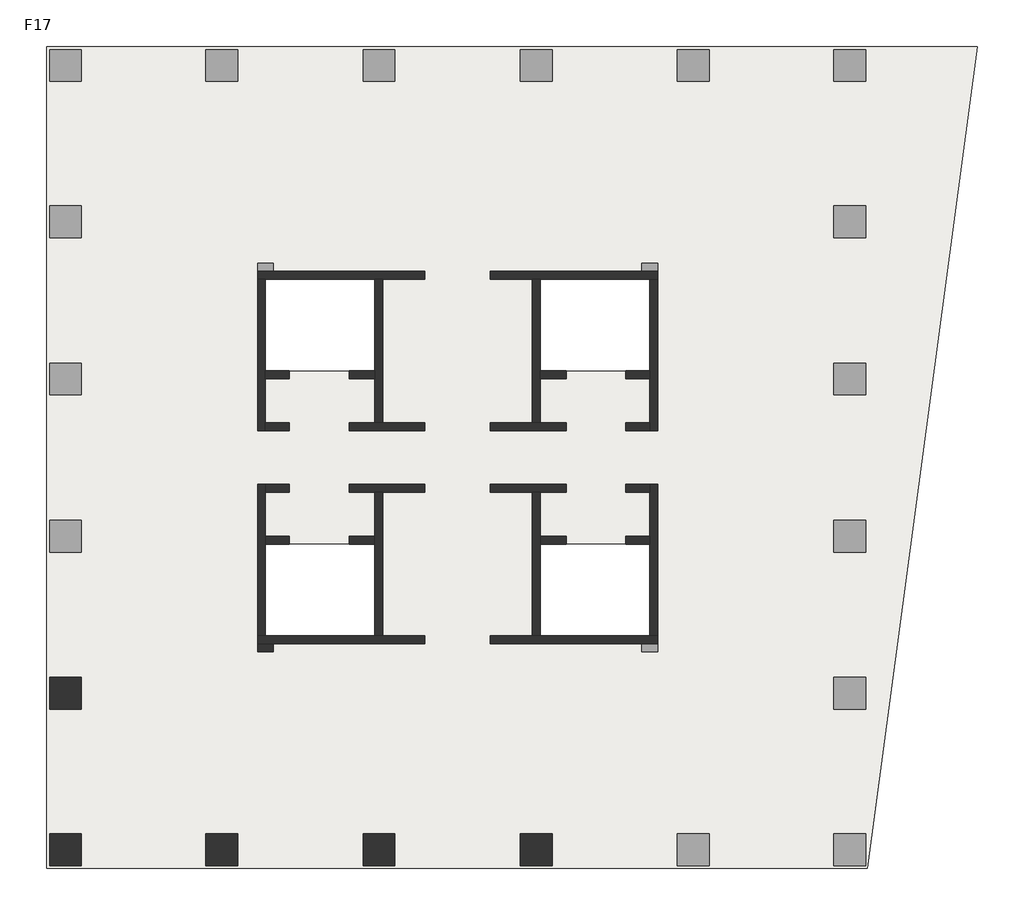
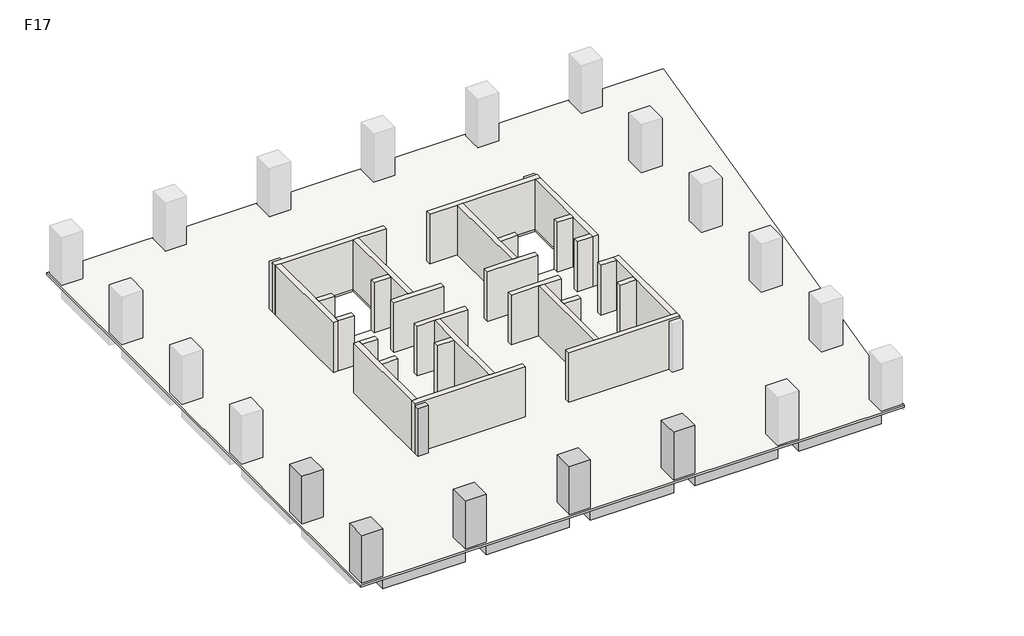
# One storey, part 1 of 2: 28 walls, 6 columns, 5 beams, 1 slab.
"""IFC4 building model written with IfcOpenShell, lengths in millimetres."""

from ifc_helpers import new_model, si_unit, frame, origin, place, context, project, spatial, polyline, outline, extrude, faceted_brep, element, save

model = new_model("IFC4")

# Units and contexts
model_context = context("Model", 3, world=origin())
ifc_project = project(units=[si_unit("LENGTHUNIT", "METRE", prefix="MILLI")], contexts=[model_context])

# Site, building, storey
site = spatial("IfcSite", under=ifc_project)
building = spatial("IfcBuilding", under=site)
storey = spatial("IfcBuildingStorey", under=building, Name="F17", Elevation=68000.0)

# Beams
placement = place(None, origin())
element("IfcBeam", 1, ObjectType="混凝土 - 矩形梁 : KL(5)-800x1000", at=placement, inside=storey, context=model_context, shape_type="SweptSolid", body=[
    extrude(outline(polyline([(-12472.6742169, -13948.9501342), (-12472.6742169, -13148.9501342), (-6222.6742169, -13148.9501342), (-6222.6742169, -13948.9501342), (-12472.6742169, -13948.9501342)])), frame((0.0, 0.0, 67000.0), z_axis=(0.0, 0.0, 1.0), x_axis=(1.0, 0.0, 0.0)), (0.0, 0.0, 1.0), 840.0),
    extrude(outline(polyline([(25327.3257831, -13148.9501342), (25327.3257831, -13948.9501342), (19077.3257831, -13948.9501342), (19077.3257831, -13148.9501342), (25327.3257831, -13148.9501342)])), frame((0.0, 0.0, 67000.0), z_axis=(0.0, 0.0, 1.0), x_axis=(1.0, 0.0, 0.0)), (0.0, 0.0, 1.0), 840.0),
    extrude(outline(polyline([(-4622.6742169, -13948.9501342), (-4622.6742169, -13148.9501342), (1677.3257831, -13148.9501342), (1677.3257831, -13948.9501342), (-4622.6742169, -13948.9501342)])), frame((0.0, 0.0, 67000.0), z_axis=(0.0, 0.0, 1.0), x_axis=(1.0, 0.0, 0.0)), (0.0, 0.0, 1.0), 840.0),
    extrude(outline(polyline([(3277.3257831, -13948.9501342), (3277.3257831, -13148.9501342), (9577.3257831, -13148.9501342), (9577.3257831, -13948.9501342), (3277.3257831, -13948.9501342)])), frame((0.0, 0.0, 67000.0), z_axis=(0.0, 0.0, 1.0), x_axis=(1.0, 0.0, 0.0)), (0.0, 0.0, 1.0), 840.0),
    extrude(outline(polyline([(11177.3257831, -13948.9501342), (11177.3257831, -13148.9501342), (17477.3257831, -13148.9501342), (17477.3257831, -13948.9501342), (11177.3257831, -13948.9501342)])), frame((0.0, 0.0, 67000.0), z_axis=(0.0, 0.0, 1.0), x_axis=(1.0, 0.0, 0.0)), (0.0, 0.0, 1.0), 840.0),
])
element("IfcBeam", 2, ObjectType="混凝土 - 矩形梁 : L1-800x500", at=placement, inside=storey, context=model_context, shape_type="Brep", body=[
    faceted_brep([(-12472.6742169, -5512.1353397, 67500.0), (-3746.9473979, -3341.556529, 67500.0), (-3173.6696907, -3198.9501342, 67500.0), (-3173.6696907, -3198.9501342, 67840.0), (-3746.9473979, -3341.556529, 67840.0), (-12472.6742169, -5512.1353397, 67840.0), (-3622.6742169, -3198.9501342, 67500.0), (-12472.6742169, -4687.7549784, 67500.0), (-3622.6742169, -2486.2624411, 67500.0), (-3622.6742169, -2798.9501342, 67500.0), (-12472.6742169, -4687.7549784, 67840.0), (-3622.6742169, -2486.2624411, 67840.0), (-3622.6742169, -3198.9501342, 67840.0)], [[[0, 1, 2, 3, 4, 5]], [[6, 2, 1, 0, 7, 8, 9]], [[8, 7, 10, 11]], [[2, 6, 12, 3]], [[9, 8, 11, 12, 6]], [[7, 0, 5, 10]], [[5, 4, 3, 12, 11, 10]]]),
])
element("IfcBeam", 3, ObjectType="混凝土 - 矩形梁 : L1-800x500", at=placement, inside=storey, context=model_context, shape_type="SweptSolid", body=[
    extrude(outline(polyline([(-3746.9473979, -3341.556529), (-3173.6696907, -3198.9501342), (-2898.7618154, -3198.9501342), (-4843.6893517, -12348.9501342), (-5661.5624638, -12348.9501342), (-3746.9473979, -3341.556529)])), frame((0.0, 0.0, 67500.0), z_axis=(0.0, 0.0, 1.0), x_axis=(1.0, 0.0, 0.0)), (0.0, 0.0, 1.0), 340.0),
])
element("IfcBeam", 4, ObjectType="混凝土 - 矩形梁 : L1-800x500", at=placement, inside=storey, context=model_context, shape_type="SweptSolid", body=[
    extrude(outline(polyline([(2877.3257831, -12348.9501342), (2077.3257831, -12348.9501342), (2077.3257831, -2798.9501342), (2877.3257831, -2798.9501342), (2877.3257831, -12348.9501342)])), frame((0.0, 0.0, 67500.0), z_axis=(0.0, 0.0, 1.0), x_axis=(1.0, 0.0, 0.0)), (0.0, 0.0, 1.0), 340.0),
])
element("IfcBeam", 5, ObjectType="混凝土 - 矩形梁 : L1-800x500", at=placement, inside=storey, context=model_context, shape_type="SweptSolid", body=[
    extrude(outline(polyline([(10777.3257831, -12348.9501342), (9977.3257831, -12348.9501342), (9977.3257831, -2798.9501342), (10777.3257831, -2798.9501342), (10777.3257831, -12348.9501342)])), frame((0.0, 0.0, 67500.0), z_axis=(0.0, 0.0, 1.0), x_axis=(1.0, 0.0, 0.0)), (0.0, 0.0, 1.0), 340.0),
])

# Columns
element("IfcColumn", 6, ObjectType="混凝土 - 矩形 - 柱 : Z1-1600x1600", at=placement, inside=storey, context=model_context, shape_type="Brep", body=[
    faceted_brep([(-12472.6742169, -4498.9501342, 68000.0), (-12472.6742169, -6098.9501342, 68000.0), (-14072.6742169, -6098.9501342, 68000.0), (-14072.6742169, -4498.9501342, 68000.0), (-12472.6742169, -4498.9501342, 71840.0), (-12472.6742169, -6098.9501342, 71840.0), (-13272.6742169, -6098.9501342, 71840.0), (-14072.6742169, -6098.9501342, 71840.0), (-14072.6742169, -6098.9501342, 71000.0), (-14072.6742169, -4498.9501342, 71840.0), (-14072.6742169, -4498.9501342, 71000.0), (-13272.6742169, -4498.9501342, 71840.0)], [[[0, 1, 2, 3]], [[1, 0, 4, 5]], [[2, 1, 5, 6, 7, 8]], [[3, 2, 8, 7, 9, 10]], [[0, 3, 10, 9, 11, 4]], [[5, 4, 11, 9, 7, 6]]]),
])
element("IfcColumn", 7, ObjectType="混凝土 - 矩形 - 柱 : Z1-1600x1600", at=placement, inside=storey, context=model_context, shape_type="SweptSolid", body=[
    extrude(outline(polyline([(-12472.6742169, -12348.9501342), (-12472.6742169, -13948.9501342), (-14072.6742169, -13948.9501342), (-14072.6742169, -12348.9501342), (-12472.6742169, -12348.9501342)])), frame((0.0, 0.0, 68000.0), z_axis=(0.0, 0.0, 1.0), x_axis=(1.0, 0.0, 0.0)), (0.0, 0.0, 1.0), 3840.0),
])
element("IfcColumn", 8, ObjectType="混凝土 - 矩形 - 柱 : Z1-1600x1600", at=placement, inside=storey, context=model_context, shape_type="Brep", body=[
    faceted_brep([(-4622.6742169, -12348.9501342, 68000.0), (-4622.6742169, -13948.9501342, 68000.0), (-6222.6742169, -13948.9501342, 68000.0), (-6222.6742169, -12348.9501342, 68000.0), (-4622.6742169, -12348.9501342, 71840.0), (-4622.6742169, -13148.9501342, 71840.0), (-4622.6742169, -13948.9501342, 71840.0), (-4622.6742169, -13948.9501342, 71000.0), (-6222.6742169, -13948.9501342, 71840.0), (-6222.6742169, -13948.9501342, 71000.0), (-6222.6742169, -13148.9501342, 71840.0), (-6222.6742169, -12348.9501342, 71840.0)], [[[0, 1, 2, 3]], [[1, 0, 4, 5, 6, 7]], [[2, 1, 7, 6, 8, 9]], [[3, 2, 9, 8, 10, 11]], [[0, 3, 11, 4]], [[6, 5, 4, 11, 10, 8]]]),
])
element("IfcColumn", 9, ObjectType="混凝土 - 矩形 - 柱 : Z1-1600x1600", at=placement, inside=storey, context=model_context, shape_type="Brep", body=[
    faceted_brep([(3277.3257831, -12348.9501342, 68000.0), (3277.3257831, -13948.9501342, 68000.0), (1677.3257831, -13948.9501342, 68000.0), (1677.3257831, -12348.9501342, 68000.0), (3277.3257831, -12348.9501342, 71840.0), (3277.3257831, -13148.9501342, 71840.0), (3277.3257831, -13948.9501342, 71840.0), (3277.3257831, -13948.9501342, 71000.0), (1677.3257831, -13948.9501342, 71840.0), (1677.3257831, -13948.9501342, 71000.0), (1677.3257831, -13148.9501342, 71840.0), (1677.3257831, -12348.9501342, 71840.0)], [[[0, 1, 2, 3]], [[1, 0, 4, 5, 6, 7]], [[2, 1, 7, 6, 8, 9]], [[3, 2, 9, 8, 10, 11]], [[0, 3, 11, 4]], [[6, 5, 4, 11, 10, 8]]]),
])
element("IfcColumn", 10, ObjectType="混凝土 - 矩形 - 柱 : Z1-1600x1600", at=placement, inside=storey, context=model_context, shape_type="Brep", body=[
    faceted_brep([(11177.3257831, -12348.9501342, 68000.0), (11177.3257831, -13948.9501342, 68000.0), (9577.3257831, -13948.9501342, 68000.0), (9577.3257831, -12348.9501342, 68000.0), (11177.3257831, -12348.9501342, 71840.0), (11177.3257831, -13148.9501342, 71840.0), (11177.3257831, -13948.9501342, 71840.0), (11177.3257831, -13948.9501342, 71000.0), (9577.3257831, -13948.9501342, 71840.0), (9577.3257831, -13948.9501342, 71000.0), (9577.3257831, -13148.9501342, 71840.0), (9577.3257831, -12348.9501342, 71840.0)], [[[0, 1, 2, 3]], [[1, 0, 4, 5, 6, 7]], [[2, 1, 7, 6, 8, 9]], [[3, 2, 9, 8, 10, 11]], [[0, 3, 11, 4]], [[6, 5, 4, 11, 10, 8]]]),
])
element("IfcColumn", 11, ObjectType="混凝土 - 矩形 - 柱 : Z2-800x800", at=placement, inside=storey, context=model_context, shape_type="SweptSolid", body=[
    extrude(outline(polyline([(-2822.6742169, -3198.9501342), (-3622.6742169, -3198.9501342), (-3622.6742169, -2798.9501342), (-2822.6742169, -2798.9501342), (-2822.6742169, -3198.9501342)])), frame((0.0, 0.0, 68000.0), z_axis=(0.0, 0.0, 1.0), x_axis=(1.0, 0.0, 0.0)), (0.0, 0.0, 1.0), 3840.0),
])

# Slab
element("IfcSlab", 12, ObjectType="LB-160", at=placement, inside=storey, context=model_context, shape_type="Brep", body=[
    faceted_brep([(32549.4477343, 27201.0498658, 67840.0), (32422.0087099, 26251.0498658, 67840.0), (27029.3257831, -13948.9501342, 67840.0), (27011.0393465, -14085.2672073, 67840.0), (-14222.6742169, -14085.2672073, 67840.0), (-14222.6742169, 27201.0498658, 67840.0), (2277.3257831, 15501.0498658, 67840.0), (-3222.6742169, 15501.0498658, 67840.0), (-3222.6742169, 10901.0498658, 67840.0), (2277.3257831, 10901.0498658, 67840.0), (2277.3257831, 2201.0498658, 67840.0), (-3222.6742169, 2201.0498658, 67840.0), (-3222.6742169, -2398.9501342, 67840.0), (2277.3257831, -2398.9501342, 67840.0), (16077.3257831, 2201.0498658, 67840.0), (10577.3257831, 2201.0498658, 67840.0), (10577.3257831, -2398.9501342, 67840.0), (16077.3257831, -2398.9501342, 67840.0), (16077.3257831, 15501.0498658, 67840.0), (10577.3257831, 15501.0498658, 67840.0), (10577.3257831, 10901.0498658, 67840.0), (16077.3257831, 10901.0498658, 67840.0), (32549.4477343, 27201.0498658, 68000.0), (-14222.6742169, 27201.0498658, 68000.0), (-14222.6742169, -14085.2672073, 68000.0), (27011.0393465, -14085.2672073, 68000.0), (2277.3257831, 15501.0498658, 68000.0), (2277.3257831, 10901.0498658, 68000.0), (-3222.6742169, 10901.0498658, 68000.0), (-3222.6742169, 15501.0498658, 68000.0), (2277.3257831, 2201.0498658, 68000.0), (2277.3257831, -2398.9501342, 68000.0), (-3222.6742169, -2398.9501342, 68000.0), (-3222.6742169, 2201.0498658, 68000.0), (16077.3257831, 2201.0498658, 68000.0), (16077.3257831, -2398.9501342, 68000.0), (10577.3257831, -2398.9501342, 68000.0), (10577.3257831, 2201.0498658, 68000.0), (16077.3257831, 15501.0498658, 68000.0), (16077.3257831, 10901.0498658, 68000.0), (10577.3257831, 10901.0498658, 68000.0), (10577.3257831, 15501.0498658, 68000.0)], [[[0, 1, 2, 3, 4, 5], [6, 7, 8, 9], [10, 11, 12, 13], [14, 15, 16, 17], [18, 19, 20, 21]], [[22, 23, 24, 25], [26, 27, 28, 29], [30, 31, 32, 33], [34, 35, 36, 37], [38, 39, 40, 41]], [[3, 2, 1, 0, 22, 25]], [[4, 3, 25, 24]], [[5, 4, 24, 23]], [[0, 5, 23, 22]], [[7, 6, 26, 29]], [[8, 7, 29, 28]], [[9, 8, 28, 27]], [[6, 9, 27, 26]], [[11, 10, 30, 33]], [[12, 11, 33, 32]], [[13, 12, 32, 31]], [[10, 13, 31, 30]], [[15, 14, 34, 37]], [[16, 15, 37, 36]], [[17, 16, 36, 35]], [[14, 17, 35, 34]], [[19, 18, 38, 41]], [[20, 19, 41, 40]], [[21, 20, 40, 39]], [[18, 21, 39, 38]]]),
])

# Walls
element("IfcWall", 13, ObjectType="剪力墙-400", at=placement, inside=storey, context=model_context, shape_type="Brep", body=[
    faceted_brep([(-3622.6742169, 15501.0498658, 68000.0), (-3222.6742169, 15501.0498658, 68000.0), (2277.3257831, 15501.0498658, 68000.0), (2677.3257831, 15501.0498658, 68000.0), (4777.3257831, 15501.0498658, 68000.0), (4777.3257831, 15501.0498658, 72000.0), (2677.3257831, 15501.0498658, 72000.0), (2277.3257831, 15501.0498658, 72000.0), (-3222.6742169, 15501.0498658, 72000.0), (-3622.6742169, 15501.0498658, 72000.0), (-3622.6742169, 15901.0498658, 68000.0), (-3622.6742169, 15901.0498658, 71840.0), (-3622.6742169, 15901.0498658, 72000.0), (4777.3257831, 15901.0498658, 72000.0), (4777.3257831, 15901.0498658, 68000.0), (-2822.6742169, 15901.0498658, 68000.0)], [[[0, 1, 2, 3, 4, 5, 6, 7, 8, 9]], [[10, 11, 12, 13, 14, 15]], [[4, 3, 2, 1, 0, 10, 15, 14]], [[5, 4, 14, 13]], [[9, 8, 7, 6, 5, 13, 12]], [[0, 9, 12, 11, 10]]]),
])
element("IfcWall", 14, ObjectType="剪力墙-400", at=placement, inside=storey, context=model_context, shape_type="Brep", body=[
    faceted_brep([(2277.3257831, 15501.0498658, 68000.0), (2277.3257831, 10901.0498658, 68000.0), (2277.3257831, 10501.0498658, 68000.0), (2277.3257831, 8301.0498658, 68000.0), (2277.3257831, 8301.0498658, 72000.0), (2277.3257831, 10501.0498658, 72000.0), (2277.3257831, 10901.0498658, 72000.0), (2277.3257831, 15501.0498658, 72000.0), (2677.3257831, 15501.0498658, 68000.0), (2677.3257831, 15501.0498658, 72000.0), (2677.3257831, 8301.0498658, 72000.0), (2677.3257831, 8301.0498658, 68000.0)], [[[0, 1, 2, 3, 4, 5, 6, 7]], [[8, 9, 10, 11]], [[3, 2, 1, 0, 8, 11]], [[7, 6, 5, 4, 10, 9]], [[0, 7, 9, 8]], [[4, 3, 11, 10]]]),
])
element("IfcWall", 15, ObjectType="剪力墙-400", at=placement, inside=storey, context=model_context, shape_type="Brep", body=[
    faceted_brep([(-3622.6742169, 15501.0498658, 68000.0), (-3622.6742169, 7901.0498658, 68000.0), (-3622.6742169, 7901.0498658, 72000.0), (-3622.6742169, 15501.0498658, 72000.0), (-3222.6742169, 15501.0498658, 68000.0), (-3222.6742169, 15501.0498658, 72000.0), (-3222.6742169, 10901.0498658, 72000.0), (-3222.6742169, 10501.0498658, 72000.0), (-3222.6742169, 8301.0498658, 72000.0), (-3222.6742169, 7901.0498658, 72000.0), (-3222.6742169, 7901.0498658, 68000.0), (-3222.6742169, 8301.0498658, 68000.0), (-3222.6742169, 10501.0498658, 68000.0), (-3222.6742169, 10901.0498658, 68000.0)], [[[0, 1, 2, 3]], [[4, 5, 6, 7, 8, 9, 10, 11, 12, 13]], [[1, 0, 4, 13, 12, 11, 10]], [[3, 2, 9, 8, 7, 6, 5]], [[0, 3, 5, 4]], [[2, 1, 10, 9]]]),
])
element("IfcWall", 16, ObjectType="剪力墙-400", at=placement, inside=storey, context=model_context, shape_type="SweptSolid", body=[
    extrude(outline(polyline([(-2022.6742169, 7901.0498658), (-3222.6742169, 7901.0498658), (-3222.6742169, 8301.0498658), (-2022.6742169, 8301.0498658), (-2022.6742169, 7901.0498658)])), frame((0.0, 0.0, 68000.0), z_axis=(0.0, 0.0, 1.0), x_axis=(1.0, 0.0, 0.0)), (0.0, 0.0, 1.0), 4000.0),
])
element("IfcWall", 17, ObjectType="剪力墙-400", at=placement, inside=storey, context=model_context, shape_type="Brep", body=[
    faceted_brep([(977.3257831, 7901.0498658, 68000.0), (4777.3257831, 7901.0498658, 68000.0), (4777.3257831, 7901.0498658, 72000.0), (977.3257831, 7901.0498658, 72000.0), (977.3257831, 8301.0498658, 68000.0), (977.3257831, 8301.0498658, 72000.0), (2277.3257831, 8301.0498658, 72000.0), (2677.3257831, 8301.0498658, 72000.0), (4777.3257831, 8301.0498658, 72000.0), (4777.3257831, 8301.0498658, 68000.0), (2677.3257831, 8301.0498658, 68000.0), (2277.3257831, 8301.0498658, 68000.0)], [[[0, 1, 2, 3]], [[4, 5, 6, 7, 8, 9, 10, 11]], [[1, 0, 4, 11, 10, 9]], [[2, 1, 9, 8]], [[3, 2, 8, 7, 6, 5]], [[0, 3, 5, 4]]]),
])
element("IfcWall", 18, ObjectType="剪力墙-400", at=placement, inside=storey, context=model_context, shape_type="SweptSolid", body=[
    extrude(outline(polyline([(-2022.6742169, 10501.0498658), (-3222.6742169, 10501.0498658), (-3222.6742169, 10901.0498658), (-2022.6742169, 10901.0498658), (-2022.6742169, 10501.0498658)])), frame((0.0, 0.0, 68000.0), z_axis=(0.0, 0.0, 1.0), x_axis=(1.0, 0.0, 0.0)), (0.0, 0.0, 1.0), 4000.0),
])
element("IfcWall", 19, ObjectType="剪力墙-400", at=placement, inside=storey, context=model_context, shape_type="SweptSolid", body=[
    extrude(outline(polyline([(2277.3257831, 10501.0498658), (977.3257831, 10501.0498658), (977.3257831, 10901.0498658), (2277.3257831, 10901.0498658), (2277.3257831, 10501.0498658)])), frame((0.0, 0.0, 68000.0), z_axis=(0.0, 0.0, 1.0), x_axis=(1.0, 0.0, 0.0)), (0.0, 0.0, 1.0), 4000.0),
])
element("IfcWall", 20, ObjectType="剪力墙-400", at=placement, inside=storey, context=model_context, shape_type="Brep", body=[
    faceted_brep([(16477.3257831, 15901.0498658, 68000.0), (15677.3257831, 15901.0498658, 68000.0), (8077.3257831, 15901.0498658, 68000.0), (8077.3257831, 15901.0498658, 72000.0), (16477.3257831, 15901.0498658, 72000.0), (16477.3257831, 15901.0498658, 71840.0), (16477.3257831, 15501.0498658, 68000.0), (16477.3257831, 15501.0498658, 72000.0), (16077.3257831, 15501.0498658, 72000.0), (10577.3257831, 15501.0498658, 72000.0), (10177.3257831, 15501.0498658, 72000.0), (8077.3257831, 15501.0498658, 72000.0), (8077.3257831, 15501.0498658, 68000.0), (10177.3257831, 15501.0498658, 68000.0), (10577.3257831, 15501.0498658, 68000.0), (16077.3257831, 15501.0498658, 68000.0)], [[[0, 1, 2, 3, 4, 5]], [[6, 7, 8, 9, 10, 11, 12, 13, 14, 15]], [[2, 1, 0, 6, 15, 14, 13, 12]], [[3, 2, 12, 11]], [[4, 3, 11, 10, 9, 8, 7]], [[0, 5, 4, 7, 6]]]),
])
element("IfcWall", 21, ObjectType="剪力墙-400", at=placement, inside=storey, context=model_context, shape_type="Brep", body=[
    faceted_brep([(10177.3257831, 15501.0498658, 68000.0), (10177.3257831, 8301.0498658, 68000.0), (10177.3257831, 8301.0498658, 72000.0), (10177.3257831, 15501.0498658, 72000.0), (10577.3257831, 15501.0498658, 68000.0), (10577.3257831, 15501.0498658, 72000.0), (10577.3257831, 10901.0498658, 72000.0), (10577.3257831, 10501.0498658, 72000.0), (10577.3257831, 8301.0498658, 72000.0), (10577.3257831, 8301.0498658, 68000.0), (10577.3257831, 10501.0498658, 68000.0), (10577.3257831, 10901.0498658, 68000.0)], [[[0, 1, 2, 3]], [[4, 5, 6, 7, 8, 9, 10, 11]], [[1, 0, 4, 11, 10, 9]], [[3, 2, 8, 7, 6, 5]], [[0, 3, 5, 4]], [[2, 1, 9, 8]]]),
])
element("IfcWall", 22, ObjectType="剪力墙-400", at=placement, inside=storey, context=model_context, shape_type="Brep", body=[
    faceted_brep([(16077.3257831, 15501.0498658, 68000.0), (16077.3257831, 10901.0498658, 68000.0), (16077.3257831, 10501.0498658, 68000.0), (16077.3257831, 8301.0498658, 68000.0), (16077.3257831, 7901.0498658, 68000.0), (16077.3257831, 7901.0498658, 72000.0), (16077.3257831, 8301.0498658, 72000.0), (16077.3257831, 10501.0498658, 72000.0), (16077.3257831, 10901.0498658, 72000.0), (16077.3257831, 15501.0498658, 72000.0), (16477.3257831, 15501.0498658, 68000.0), (16477.3257831, 15501.0498658, 72000.0), (16477.3257831, 7901.0498658, 72000.0), (16477.3257831, 7901.0498658, 68000.0)], [[[0, 1, 2, 3, 4, 5, 6, 7, 8, 9]], [[10, 11, 12, 13]], [[4, 3, 2, 1, 0, 10, 13]], [[9, 8, 7, 6, 5, 12, 11]], [[0, 9, 11, 10]], [[5, 4, 13, 12]]]),
])
element("IfcWall", 23, ObjectType="剪力墙-400", at=placement, inside=storey, context=model_context, shape_type="SweptSolid", body=[
    extrude(outline(polyline([(14877.3257831, 8301.0498658), (16077.3257831, 8301.0498658), (16077.3257831, 7901.0498658), (14877.3257831, 7901.0498658), (14877.3257831, 8301.0498658)])), frame((0.0, 0.0, 68000.0), z_axis=(0.0, 0.0, 1.0), x_axis=(1.0, 0.0, 0.0)), (0.0, 0.0, 1.0), 4000.0),
])
element("IfcWall", 24, ObjectType="剪力墙-400", at=placement, inside=storey, context=model_context, shape_type="Brep", body=[
    faceted_brep([(11877.3257831, 8301.0498658, 68000.0), (10577.3257831, 8301.0498658, 68000.0), (10177.3257831, 8301.0498658, 68000.0), (8077.3257831, 8301.0498658, 68000.0), (8077.3257831, 8301.0498658, 72000.0), (10177.3257831, 8301.0498658, 72000.0), (10577.3257831, 8301.0498658, 72000.0), (11877.3257831, 8301.0498658, 72000.0), (11877.3257831, 7901.0498658, 68000.0), (11877.3257831, 7901.0498658, 72000.0), (8077.3257831, 7901.0498658, 72000.0), (8077.3257831, 7901.0498658, 68000.0)], [[[0, 1, 2, 3, 4, 5, 6, 7]], [[8, 9, 10, 11]], [[3, 2, 1, 0, 8, 11]], [[4, 3, 11, 10]], [[7, 6, 5, 4, 10, 9]], [[0, 7, 9, 8]]]),
])
element("IfcWall", 25, ObjectType="剪力墙-400", at=placement, inside=storey, context=model_context, shape_type="SweptSolid", body=[
    extrude(outline(polyline([(14877.3257831, 10901.0498658), (16077.3257831, 10901.0498658), (16077.3257831, 10501.0498658), (14877.3257831, 10501.0498658), (14877.3257831, 10901.0498658)])), frame((0.0, 0.0, 68000.0), z_axis=(0.0, 0.0, 1.0), x_axis=(1.0, 0.0, 0.0)), (0.0, 0.0, 1.0), 4000.0),
])
element("IfcWall", 26, ObjectType="剪力墙-400", at=placement, inside=storey, context=model_context, shape_type="SweptSolid", body=[
    extrude(outline(polyline([(10577.3257831, 10901.0498658), (11877.3257831, 10901.0498658), (11877.3257831, 10501.0498658), (10577.3257831, 10501.0498658), (10577.3257831, 10901.0498658)])), frame((0.0, 0.0, 68000.0), z_axis=(0.0, 0.0, 1.0), x_axis=(1.0, 0.0, 0.0)), (0.0, 0.0, 1.0), 4000.0),
])
element("IfcWall", 27, ObjectType="剪力墙-400", at=placement, inside=storey, context=model_context, shape_type="Brep", body=[
    faceted_brep([(-3622.6742169, -2798.9501342, 68000.0), (-2822.6742169, -2798.9501342, 68000.0), (4777.3257831, -2798.9501342, 68000.0), (4777.3257831, -2798.9501342, 72000.0), (-3622.6742169, -2798.9501342, 72000.0), (-3622.6742169, -2798.9501342, 71840.0), (-3622.6742169, -2398.9501342, 68000.0), (-3622.6742169, -2398.9501342, 72000.0), (-3222.6742169, -2398.9501342, 72000.0), (2277.3257831, -2398.9501342, 72000.0), (2677.3257831, -2398.9501342, 72000.0), (4777.3257831, -2398.9501342, 72000.0), (4777.3257831, -2398.9501342, 68000.0), (2677.3257831, -2398.9501342, 68000.0), (2277.3257831, -2398.9501342, 68000.0), (-3222.6742169, -2398.9501342, 68000.0)], [[[0, 1, 2, 3, 4, 5]], [[6, 7, 8, 9, 10, 11, 12, 13, 14, 15]], [[2, 1, 0, 6, 15, 14, 13, 12]], [[3, 2, 12, 11]], [[4, 3, 11, 10, 9, 8, 7]], [[0, 5, 4, 7, 6]]]),
])
element("IfcWall", 28, ObjectType="剪力墙-400", at=placement, inside=storey, context=model_context, shape_type="Brep", body=[
    faceted_brep([(2677.3257831, -2398.9501342, 68000.0), (2677.3257831, 4801.0498658, 68000.0), (2677.3257831, 4801.0498658, 72000.0), (2677.3257831, -2398.9501342, 72000.0), (2277.3257831, -2398.9501342, 68000.0), (2277.3257831, -2398.9501342, 72000.0), (2277.3257831, 2201.0498658, 72000.0), (2277.3257831, 2601.0498658, 72000.0), (2277.3257831, 4801.0498658, 72000.0), (2277.3257831, 4801.0498658, 68000.0), (2277.3257831, 2601.0498658, 68000.0), (2277.3257831, 2201.0498658, 68000.0)], [[[0, 1, 2, 3]], [[4, 5, 6, 7, 8, 9, 10, 11]], [[1, 0, 4, 11, 10, 9]], [[3, 2, 8, 7, 6, 5]], [[0, 3, 5, 4]], [[2, 1, 9, 8]]]),
])
element("IfcWall", 29, ObjectType="剪力墙-400", at=placement, inside=storey, context=model_context, shape_type="Brep", body=[
    faceted_brep([(-3222.6742169, -2398.9501342, 68000.0), (-3222.6742169, 2201.0498658, 68000.0), (-3222.6742169, 2601.0498658, 68000.0), (-3222.6742169, 4801.0498658, 68000.0), (-3222.6742169, 5201.0498658, 68000.0), (-3222.6742169, 5201.0498658, 72000.0), (-3222.6742169, 4801.0498658, 72000.0), (-3222.6742169, 2601.0498658, 72000.0), (-3222.6742169, 2201.0498658, 72000.0), (-3222.6742169, -2398.9501342, 72000.0), (-3622.6742169, -2398.9501342, 68000.0), (-3622.6742169, -2398.9501342, 72000.0), (-3622.6742169, 5201.0498658, 72000.0), (-3622.6742169, 5201.0498658, 68000.0)], [[[0, 1, 2, 3, 4, 5, 6, 7, 8, 9]], [[10, 11, 12, 13]], [[4, 3, 2, 1, 0, 10, 13]], [[9, 8, 7, 6, 5, 12, 11]], [[0, 9, 11, 10]], [[5, 4, 13, 12]]]),
])
element("IfcWall", 30, ObjectType="剪力墙-400", at=placement, inside=storey, context=model_context, shape_type="SweptSolid", body=[
    extrude(outline(polyline([(-2022.6742169, 4801.0498658), (-3222.6742169, 4801.0498658), (-3222.6742169, 5201.0498658), (-2022.6742169, 5201.0498658), (-2022.6742169, 4801.0498658)])), frame((0.0, 0.0, 68000.0), z_axis=(0.0, 0.0, 1.0), x_axis=(1.0, 0.0, 0.0)), (0.0, 0.0, 1.0), 4000.0),
])
element("IfcWall", 31, ObjectType="剪力墙-400", at=placement, inside=storey, context=model_context, shape_type="Brep", body=[
    faceted_brep([(977.3257831, 4801.0498658, 68000.0), (2277.3257831, 4801.0498658, 68000.0), (2677.3257831, 4801.0498658, 68000.0), (4777.3257831, 4801.0498658, 68000.0), (4777.3257831, 4801.0498658, 72000.0), (2677.3257831, 4801.0498658, 72000.0), (2277.3257831, 4801.0498658, 72000.0), (977.3257831, 4801.0498658, 72000.0), (977.3257831, 5201.0498658, 68000.0), (977.3257831, 5201.0498658, 72000.0), (4777.3257831, 5201.0498658, 72000.0), (4777.3257831, 5201.0498658, 68000.0)], [[[0, 1, 2, 3, 4, 5, 6, 7]], [[8, 9, 10, 11]], [[3, 2, 1, 0, 8, 11]], [[4, 3, 11, 10]], [[7, 6, 5, 4, 10, 9]], [[0, 7, 9, 8]]]),
])
element("IfcWall", 32, ObjectType="剪力墙-400", at=placement, inside=storey, context=model_context, shape_type="SweptSolid", body=[
    extrude(outline(polyline([(-2022.6742169, 2201.0498658), (-3222.6742169, 2201.0498658), (-3222.6742169, 2601.0498658), (-2022.6742169, 2601.0498658), (-2022.6742169, 2201.0498658)])), frame((0.0, 0.0, 68000.0), z_axis=(0.0, 0.0, 1.0), x_axis=(1.0, 0.0, 0.0)), (0.0, 0.0, 1.0), 4000.0),
])
element("IfcWall", 33, ObjectType="剪力墙-400", at=placement, inside=storey, context=model_context, shape_type="SweptSolid", body=[
    extrude(outline(polyline([(2277.3257831, 2201.0498658), (977.3257831, 2201.0498658), (977.3257831, 2601.0498658), (2277.3257831, 2601.0498658), (2277.3257831, 2201.0498658)])), frame((0.0, 0.0, 68000.0), z_axis=(0.0, 0.0, 1.0), x_axis=(1.0, 0.0, 0.0)), (0.0, 0.0, 1.0), 4000.0),
])
element("IfcWall", 34, ObjectType="剪力墙-400", at=placement, inside=storey, context=model_context, shape_type="Brep", body=[
    faceted_brep([(16477.3257831, -2398.9501342, 68000.0), (16077.3257831, -2398.9501342, 68000.0), (10577.3257831, -2398.9501342, 68000.0), (10177.3257831, -2398.9501342, 68000.0), (8077.3257831, -2398.9501342, 68000.0), (8077.3257831, -2398.9501342, 72000.0), (10177.3257831, -2398.9501342, 72000.0), (10577.3257831, -2398.9501342, 72000.0), (16077.3257831, -2398.9501342, 72000.0), (16477.3257831, -2398.9501342, 72000.0), (16477.3257831, -2798.9501342, 68000.0), (16477.3257831, -2798.9501342, 71840.0), (16477.3257831, -2798.9501342, 72000.0), (8077.3257831, -2798.9501342, 72000.0), (8077.3257831, -2798.9501342, 68000.0), (15677.3257831, -2798.9501342, 68000.0)], [[[0, 1, 2, 3, 4, 5, 6, 7, 8, 9]], [[10, 11, 12, 13, 14, 15]], [[4, 3, 2, 1, 0, 10, 15, 14]], [[5, 4, 14, 13]], [[9, 8, 7, 6, 5, 13, 12]], [[0, 9, 12, 11, 10]]]),
])
element("IfcWall", 35, ObjectType="剪力墙-400", at=placement, inside=storey, context=model_context, shape_type="Brep", body=[
    faceted_brep([(10577.3257831, -2398.9501342, 68000.0), (10577.3257831, 2201.0498658, 68000.0), (10577.3257831, 2601.0498658, 68000.0), (10577.3257831, 4801.0498658, 68000.0), (10577.3257831, 4801.0498658, 72000.0), (10577.3257831, 2601.0498658, 72000.0), (10577.3257831, 2201.0498658, 72000.0), (10577.3257831, -2398.9501342, 72000.0), (10177.3257831, -2398.9501342, 68000.0), (10177.3257831, -2398.9501342, 72000.0), (10177.3257831, 4801.0498658, 72000.0), (10177.3257831, 4801.0498658, 68000.0)], [[[0, 1, 2, 3, 4, 5, 6, 7]], [[8, 9, 10, 11]], [[3, 2, 1, 0, 8, 11]], [[7, 6, 5, 4, 10, 9]], [[0, 7, 9, 8]], [[4, 3, 11, 10]]]),
])
element("IfcWall", 36, ObjectType="剪力墙-400", at=placement, inside=storey, context=model_context, shape_type="Brep", body=[
    faceted_brep([(16477.3257831, -2398.9501342, 68000.0), (16477.3257831, 5201.0498658, 68000.0), (16477.3257831, 5201.0498658, 72000.0), (16477.3257831, -2398.9501342, 72000.0), (16077.3257831, -2398.9501342, 68000.0), (16077.3257831, -2398.9501342, 72000.0), (16077.3257831, 2201.0498658, 72000.0), (16077.3257831, 2601.0498658, 72000.0), (16077.3257831, 4801.0498658, 72000.0), (16077.3257831, 5201.0498658, 72000.0), (16077.3257831, 5201.0498658, 68000.0), (16077.3257831, 4801.0498658, 68000.0), (16077.3257831, 2601.0498658, 68000.0), (16077.3257831, 2201.0498658, 68000.0)], [[[0, 1, 2, 3]], [[4, 5, 6, 7, 8, 9, 10, 11, 12, 13]], [[1, 0, 4, 13, 12, 11, 10]], [[3, 2, 9, 8, 7, 6, 5]], [[0, 3, 5, 4]], [[2, 1, 10, 9]]]),
])
element("IfcWall", 37, ObjectType="剪力墙-400", at=placement, inside=storey, context=model_context, shape_type="SweptSolid", body=[
    extrude(outline(polyline([(14877.3257831, 5201.0498658), (16077.3257831, 5201.0498658), (16077.3257831, 4801.0498658), (14877.3257831, 4801.0498658), (14877.3257831, 5201.0498658)])), frame((0.0, 0.0, 68000.0), z_axis=(0.0, 0.0, 1.0), x_axis=(1.0, 0.0, 0.0)), (0.0, 0.0, 1.0), 4000.0),
])
element("IfcWall", 38, ObjectType="剪力墙-400", at=placement, inside=storey, context=model_context, shape_type="Brep", body=[
    faceted_brep([(11877.3257831, 5201.0498658, 68000.0), (8077.3257831, 5201.0498658, 68000.0), (8077.3257831, 5201.0498658, 72000.0), (11877.3257831, 5201.0498658, 72000.0), (11877.3257831, 4801.0498658, 68000.0), (11877.3257831, 4801.0498658, 72000.0), (10577.3257831, 4801.0498658, 72000.0), (10177.3257831, 4801.0498658, 72000.0), (8077.3257831, 4801.0498658, 72000.0), (8077.3257831, 4801.0498658, 68000.0), (10177.3257831, 4801.0498658, 68000.0), (10577.3257831, 4801.0498658, 68000.0)], [[[0, 1, 2, 3]], [[4, 5, 6, 7, 8, 9, 10, 11]], [[1, 0, 4, 11, 10, 9]], [[2, 1, 9, 8]], [[3, 2, 8, 7, 6, 5]], [[0, 3, 5, 4]]]),
])
element("IfcWall", 39, ObjectType="剪力墙-400", at=placement, inside=storey, context=model_context, shape_type="SweptSolid", body=[
    extrude(outline(polyline([(14877.3257831, 2601.0498658), (16077.3257831, 2601.0498658), (16077.3257831, 2201.0498658), (14877.3257831, 2201.0498658), (14877.3257831, 2601.0498658)])), frame((0.0, 0.0, 68000.0), z_axis=(0.0, 0.0, 1.0), x_axis=(1.0, 0.0, 0.0)), (0.0, 0.0, 1.0), 4000.0),
])
element("IfcWall", 40, ObjectType="剪力墙-400", at=placement, inside=storey, context=model_context, shape_type="SweptSolid", body=[
    extrude(outline(polyline([(10577.3257831, 2601.0498658), (11877.3257831, 2601.0498658), (11877.3257831, 2201.0498658), (10577.3257831, 2201.0498658), (10577.3257831, 2601.0498658)])), frame((0.0, 0.0, 68000.0), z_axis=(0.0, 0.0, 1.0), x_axis=(1.0, 0.0, 0.0)), (0.0, 0.0, 1.0), 4000.0),
])

save(model, "model.ifc")
